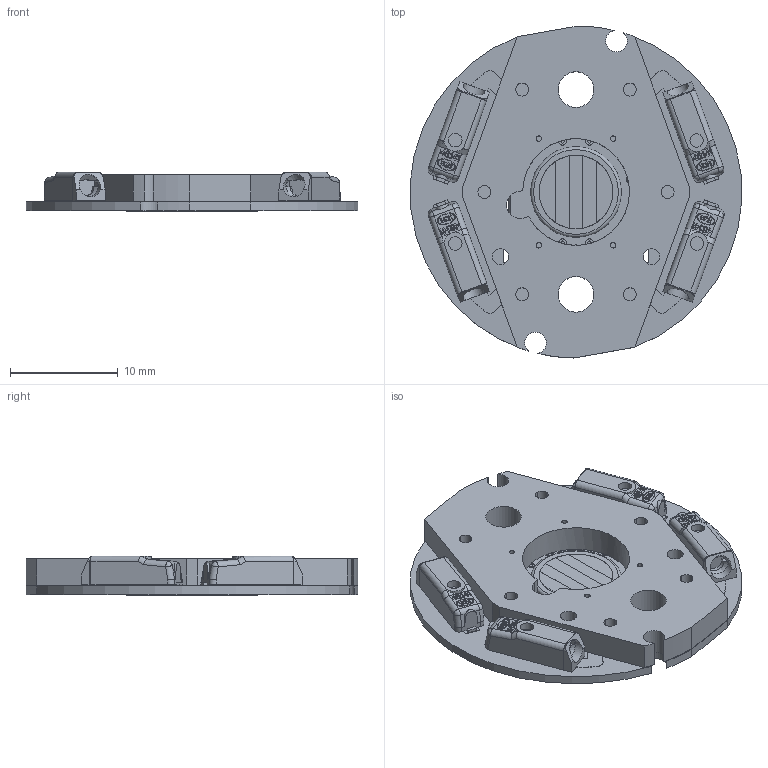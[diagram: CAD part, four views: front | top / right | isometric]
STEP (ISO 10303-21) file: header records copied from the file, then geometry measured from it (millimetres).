
FILE_DESCRIPTION (( 'STEP AP214' ), '1' );
FILE_NAME ('NTW 6 Holder-CoB Assembly.STEP', '2020-08-15T00:33:11', ( '' ), ( '' ), 'SwSTEP 2.0', 'SolidWorks 2020', '' );
FILE_SCHEMA (( 'AUTOMOTIVE_DESIGN' ));
Length unit declared in the file: millimetre
Products named in the file (1): NTW 6 Holder-CoB Assembly
Bounding box: 30.74 x 30.8 x 3.69 mm (x, y, z)
Volume: 1738.4 mm3; surface area: 3152.7 mm2
Topology: 1 solids, 23 shells, 1461 faces, 3850 edges, 2524 vertices
Faces by surface type: plane 964, cylinder 443, bspline 36, sphere 8, torus 6, cone 4
Full cylindrical faces by diameter (mm): 0.3 x4, 0.7 x4, 0.8 x1, 1 x1, 1.25 x4, 1.5 x2, 2.1 x4, 3.3 x2, 3.7 x2, 6 x1
Entity records: 66611 total; most frequent: CARTESIAN_POINT 14424, ORIENTED_EDGE 7564, DIRECTION 7262, EDGE_CURVE 3782, LINE 2748, VECTOR 2748, VERTEX_POINT 2507, AXIS2_PLACEMENT_3D 2257
